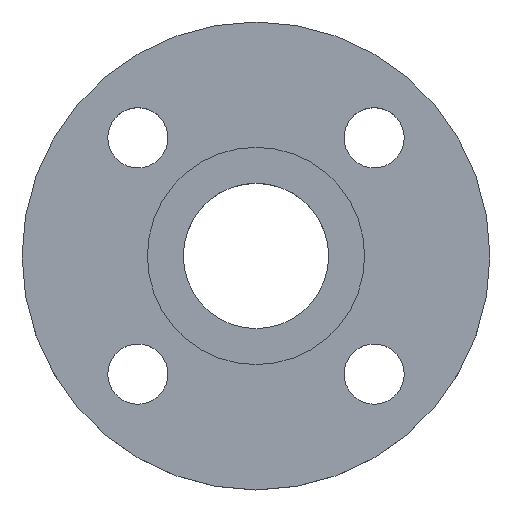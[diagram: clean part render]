
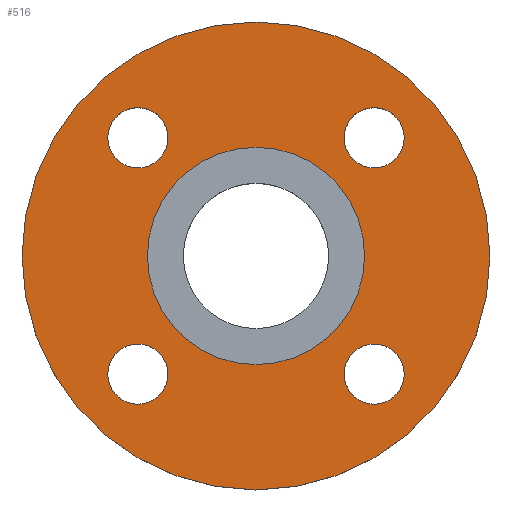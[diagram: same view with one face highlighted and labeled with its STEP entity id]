
A CAD part, top view. The second image highlights one B-rep face of the part: STEP entity #516.
In plain terms, the highlighted planar face has unit normal (0, 0, 1).
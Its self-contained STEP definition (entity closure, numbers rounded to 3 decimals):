
#1 = DIRECTION ( 'NONE',  ( 0., 0., -1. ) ) ;
#13 = FACE_BOUND ( 'NONE', #465, .T. ) ;
#14 = VERTEX_POINT ( 'NONE', #368 ) ;
#40 = EDGE_LOOP ( 'NONE', ( #544, #271 ) ) ;
#43 = ORIENTED_EDGE ( 'NONE', *, *, #142, .T. ) ;
#46 = AXIS2_PLACEMENT_3D ( 'NONE', #247, #472, #679 ) ;
#58 = AXIS2_PLACEMENT_3D ( 'NONE', #607, #91, #334 ) ;
#70 = DIRECTION ( 'NONE',  ( 0., 0., -1. ) ) ;
#82 = EDGE_CURVE ( 'NONE', #364, #651, #230, .T. ) ;
#91 = DIRECTION ( 'NONE',  ( 0., 0., -1. ) ) ;
#97 = CARTESIAN_POINT ( 'NONE',  ( 35.355, 35.355, -4.5 ) ) ;
#122 = EDGE_CURVE ( 'NONE', #519, #165, #302, .T. ) ;
#127 = ORIENTED_EDGE ( 'NONE', *, *, #379, .F. ) ;
#130 = DIRECTION ( 'NONE',  ( 0., 0., 1. ) ) ;
#134 = DIRECTION ( 'NONE',  ( 0., 0., -1. ) ) ;
#142 = EDGE_CURVE ( 'NONE', #594, #694, #242, .T. ) ;
#146 = VERTEX_POINT ( 'NONE', #303 ) ;
#152 = AXIS2_PLACEMENT_3D ( 'NONE', #692, #202, #431 ) ;
#156 = CARTESIAN_POINT ( 'NONE',  ( 0., 0., -4.5 ) ) ;
#165 = VERTEX_POINT ( 'NONE', #580 ) ;
#171 = DIRECTION ( 'NONE',  ( 1., 0., 0. ) ) ;
#173 = CIRCLE ( 'NONE', #503, 9. ) ;
#174 = CIRCLE ( 'NONE', #504, 9. ) ;
#179 = DIRECTION ( 'NONE',  ( 0., 0., -1. ) ) ;
#184 = EDGE_CURVE ( 'NONE', #146, #14, #174, .T. ) ;
#186 = CARTESIAN_POINT ( 'NONE',  ( -35.355, -35.355, -4.5 ) ) ;
#189 = FACE_OUTER_BOUND ( 'NONE', #348, .T. ) ;
#195 = CARTESIAN_POINT ( 'NONE',  ( 44.355, -35.355, -4.5 ) ) ;
#202 = DIRECTION ( 'NONE',  ( 0., 0., -1. ) ) ;
#205 = AXIS2_PLACEMENT_3D ( 'NONE', #156, #391, #608 ) ;
#207 = AXIS2_PLACEMENT_3D ( 'NONE', #236, #462, #671 ) ;
#227 = CIRCLE ( 'NONE', #631, 32.5 ) ;
#230 = CIRCLE ( 'NONE', #552, 9. ) ;
#236 = CARTESIAN_POINT ( 'NONE',  ( -35.355, 35.355, -4.5 ) ) ;
#238 = DIRECTION ( 'NONE',  ( 1., 0., 0. ) ) ;
#242 = CIRCLE ( 'NONE', #559, 9. ) ;
#247 = CARTESIAN_POINT ( 'NONE',  ( 35.355, 35.355, -4.5 ) ) ;
#250 = FACE_BOUND ( 'NONE', #345, .T. ) ;
#252 = VERTEX_POINT ( 'NONE', #485 ) ;
#253 = EDGE_CURVE ( 'NONE', #252, #646, #568, .T. ) ;
#260 = CARTESIAN_POINT ( 'NONE',  ( 32.5, 0., -4.5 ) ) ;
#271 = ORIENTED_EDGE ( 'NONE', *, *, #606, .T. ) ;
#286 = AXIS2_PLACEMENT_3D ( 'NONE', #636, #130, #367 ) ;
#302 = CIRCLE ( 'NONE', #207, 9. ) ;
#303 = CARTESIAN_POINT ( 'NONE',  ( -44.355, -35.355, -4.5 ) ) ;
#315 = AXIS2_PLACEMENT_3D ( 'NONE', #521, #1, #238 ) ;
#317 = DIRECTION ( 'NONE',  ( 1., 0., 0. ) ) ;
#334 = DIRECTION ( 'NONE',  ( -1., 0., 0. ) ) ;
#344 = DIRECTION ( 'NONE',  ( 0., 0., -1. ) ) ;
#345 = EDGE_LOOP ( 'NONE', ( #575, #378 ) ) ;
#348 = EDGE_LOOP ( 'NONE', ( #457, #127 ) ) ;
#358 = ORIENTED_EDGE ( 'NONE', *, *, #609, .T. ) ;
#361 = EDGE_CURVE ( 'NONE', #598, #615, #491, .T. ) ;
#364 = VERTEX_POINT ( 'NONE', #557 ) ;
#367 = DIRECTION ( 'NONE',  ( 1., 0., 0. ) ) ;
#368 = CARTESIAN_POINT ( 'NONE',  ( -26.355, -35.355, -4.5 ) ) ;
#372 = DIRECTION ( 'NONE',  ( -1., 0., 0. ) ) ;
#375 = CARTESIAN_POINT ( 'NONE',  ( 26.355, -35.355, -4.5 ) ) ;
#378 = ORIENTED_EDGE ( 'NONE', *, *, #438, .T. ) ;
#379 = EDGE_CURVE ( 'NONE', #615, #598, #610, .T. ) ;
#391 = DIRECTION ( 'NONE',  ( 0., 0., -1. ) ) ;
#405 = CIRCLE ( 'NONE', #315, 9. ) ;
#412 = DIRECTION ( 'NONE',  ( 1., 0., 0. ) ) ;
#419 = AXIS2_PLACEMENT_3D ( 'NONE', #587, #70, #317 ) ;
#422 = DIRECTION ( 'NONE',  ( 0., 0., -1. ) ) ;
#423 = PLANE ( 'NONE',  #286 ) ;
#426 = CARTESIAN_POINT ( 'NONE',  ( 70., 0., -4.5 ) ) ;
#430 = CARTESIAN_POINT ( 'NONE',  ( 26.355, 35.355, -4.5 ) ) ;
#431 = DIRECTION ( 'NONE',  ( -1., 0., 0. ) ) ;
#438 = EDGE_CURVE ( 'NONE', #165, #519, #173, .T. ) ;
#449 = EDGE_CURVE ( 'NONE', #14, #146, #405, .T. ) ;
#457 = ORIENTED_EDGE ( 'NONE', *, *, #361, .F. ) ;
#460 = CARTESIAN_POINT ( 'NONE',  ( -35.355, 35.355, -4.5 ) ) ;
#462 = DIRECTION ( 'NONE',  ( 0., 0., -1. ) ) ;
#465 = EDGE_LOOP ( 'NONE', ( #693, #556 ) ) ;
#472 = DIRECTION ( 'NONE',  ( 0., 0., -1. ) ) ;
#476 = FACE_BOUND ( 'NONE', #716, .T. ) ;
#478 = CIRCLE ( 'NONE', #46, 9. ) ;
#485 = CARTESIAN_POINT ( 'NONE',  ( -32.5, 0., -4.5 ) ) ;
#491 = CIRCLE ( 'NONE', #58, 70. ) ;
#499 = EDGE_CURVE ( 'NONE', #651, #364, #478, .T. ) ;
#503 = AXIS2_PLACEMENT_3D ( 'NONE', #460, #668, #171 ) ;
#504 = AXIS2_PLACEMENT_3D ( 'NONE', #186, #422, #635 ) ;
#516 = ADVANCED_FACE ( 'NONE', ( #532, #13, #250, #476, #682, #189 ), #423, .T. ) ;
#519 = VERTEX_POINT ( 'NONE', #584 ) ;
#521 = CARTESIAN_POINT ( 'NONE',  ( -35.355, -35.355, -4.5 ) ) ;
#532 = FACE_BOUND ( 'NONE', #613, .T. ) ;
#540 = CARTESIAN_POINT ( 'NONE',  ( -70., 0., -4.5 ) ) ;
#544 = ORIENTED_EDGE ( 'NONE', *, *, #253, .T. ) ;
#552 = AXIS2_PLACEMENT_3D ( 'NONE', #97, #344, #563 ) ;
#554 = ORIENTED_EDGE ( 'NONE', *, *, #82, .T. ) ;
#556 = ORIENTED_EDGE ( 'NONE', *, *, #184, .T. ) ;
#557 = CARTESIAN_POINT ( 'NONE',  ( 44.355, 35.355, -4.5 ) ) ;
#559 = AXIS2_PLACEMENT_3D ( 'NONE', #675, #179, #412 ) ;
#563 = DIRECTION ( 'NONE',  ( 1., 0., 0. ) ) ;
#568 = CIRCLE ( 'NONE', #152, 32.5 ) ;
#575 = ORIENTED_EDGE ( 'NONE', *, *, #122, .T. ) ;
#580 = CARTESIAN_POINT ( 'NONE',  ( -44.355, 35.355, -4.5 ) ) ;
#584 = CARTESIAN_POINT ( 'NONE',  ( -26.355, 35.355, -4.5 ) ) ;
#587 = CARTESIAN_POINT ( 'NONE',  ( 35.355, -35.355, -4.5 ) ) ;
#594 = VERTEX_POINT ( 'NONE', #195 ) ;
#598 = VERTEX_POINT ( 'NONE', #426 ) ;
#606 = EDGE_CURVE ( 'NONE', #646, #252, #227, .T. ) ;
#607 = CARTESIAN_POINT ( 'NONE',  ( 0., 0., -4.5 ) ) ;
#608 = DIRECTION ( 'NONE',  ( -1., 0., 0. ) ) ;
#609 = EDGE_CURVE ( 'NONE', #694, #594, #713, .T. ) ;
#610 = CIRCLE ( 'NONE', #205, 70. ) ;
#613 = EDGE_LOOP ( 'NONE', ( #43, #358 ) ) ;
#615 = VERTEX_POINT ( 'NONE', #540 ) ;
#621 = ORIENTED_EDGE ( 'NONE', *, *, #499, .T. ) ;
#631 = AXIS2_PLACEMENT_3D ( 'NONE', #639, #134, #372 ) ;
#635 = DIRECTION ( 'NONE',  ( 1., 0., 0. ) ) ;
#636 = CARTESIAN_POINT ( 'NONE',  ( 32.5, 0., -4.5 ) ) ;
#639 = CARTESIAN_POINT ( 'NONE',  ( 0., 0., -4.5 ) ) ;
#646 = VERTEX_POINT ( 'NONE', #260 ) ;
#651 = VERTEX_POINT ( 'NONE', #430 ) ;
#668 = DIRECTION ( 'NONE',  ( 0., 0., -1. ) ) ;
#671 = DIRECTION ( 'NONE',  ( 1., 0., 0. ) ) ;
#675 = CARTESIAN_POINT ( 'NONE',  ( 35.355, -35.355, -4.5 ) ) ;
#679 = DIRECTION ( 'NONE',  ( 1., 0., 0. ) ) ;
#682 = FACE_BOUND ( 'NONE', #40, .T. ) ;
#692 = CARTESIAN_POINT ( 'NONE',  ( 0., 0., -4.5 ) ) ;
#693 = ORIENTED_EDGE ( 'NONE', *, *, #449, .T. ) ;
#694 = VERTEX_POINT ( 'NONE', #375 ) ;
#713 = CIRCLE ( 'NONE', #419, 9. ) ;
#716 = EDGE_LOOP ( 'NONE', ( #554, #621 ) ) ;
